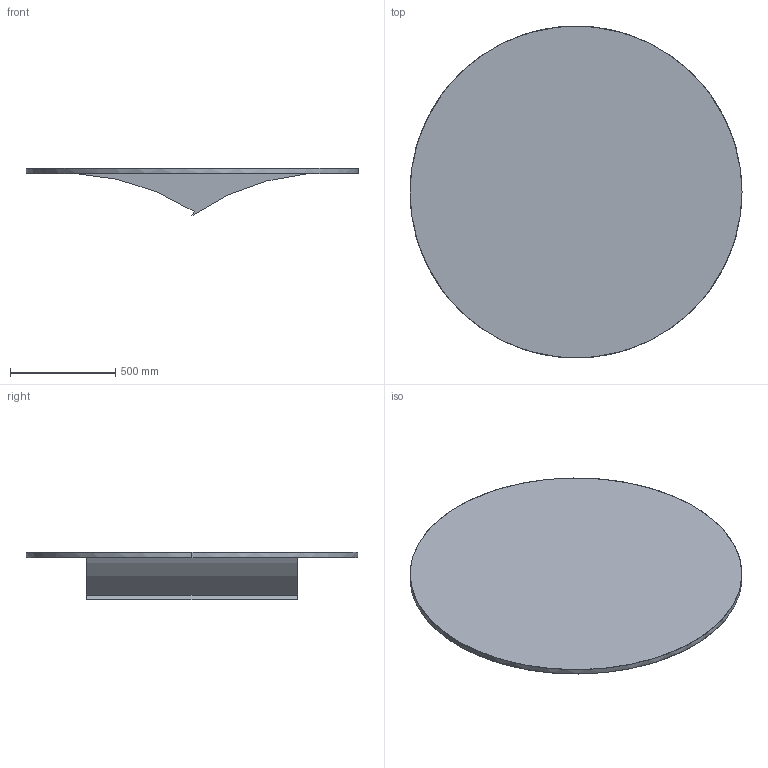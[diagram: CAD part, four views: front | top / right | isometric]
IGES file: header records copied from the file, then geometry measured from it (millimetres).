
Start section: Comment
Global section: file name: sphere_mirror_negx_negy.iges; native system:  By UGS Corp.; preprocessor: XPlus GENERIC/IGES 3.0; author: Author; organization: Title; date: 20090504.151107; units: millimetre
Bounding box: 1580 x 1577.87 x 225.4 mm (x, y, z)
Surface area: 4303607.3 mm2 (no closed solid volume)
Topology: 0 solids, 0 shells, 9 faces, 36 edges, 36 vertices
Faces by surface type: bspline 9
